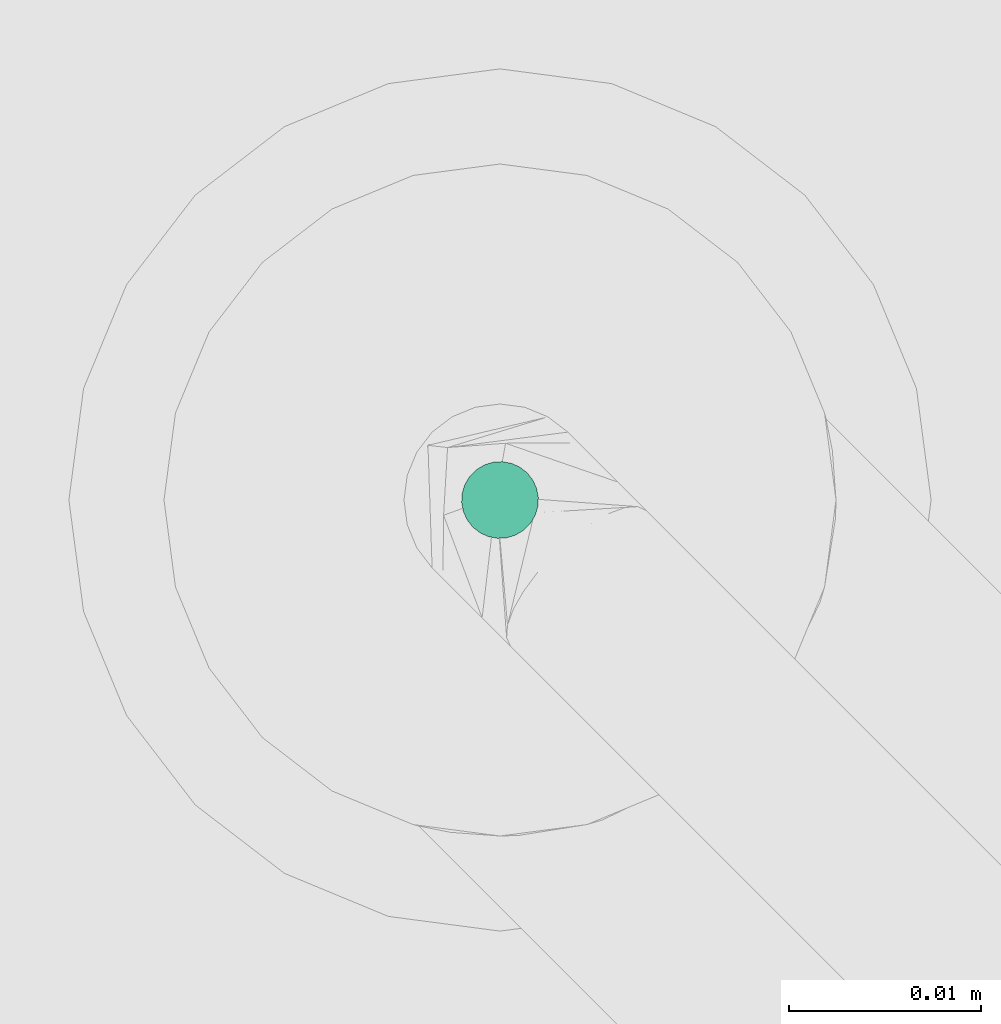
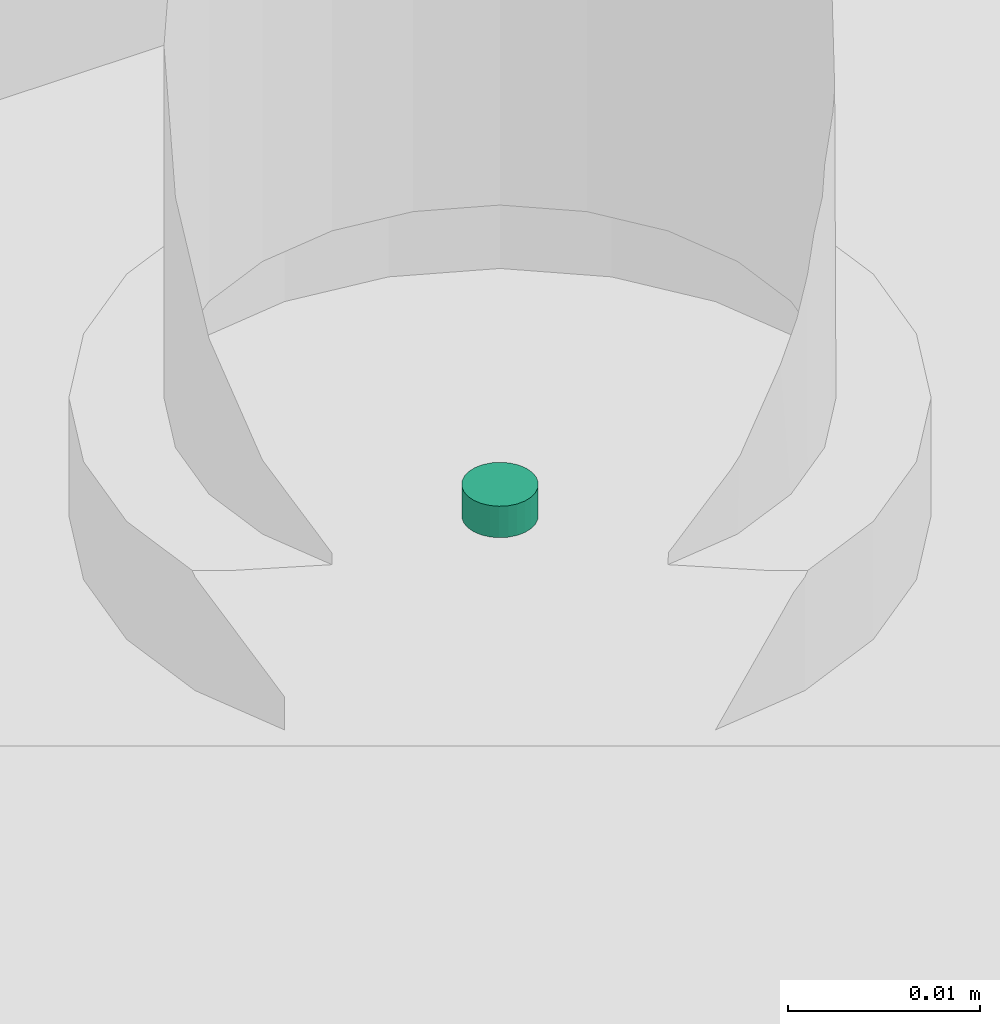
# One storey, part 72 of 155: 1 flow terminal.
"""IFC2X3 building model written with IfcOpenShell, lengths in metres."""

from ifc_helpers import new_model, entity, si_unit, converted_unit, derived_unit, direction, frame, frame_2d, origin, place, context, subcontext, project, spatial, circle, extrude, source, transform, mapped, element, save


model = new_model("IFC2X3")

# Units and contexts
model_context = context("Model", 3, precision=1e-05, world=origin(), true_north=direction((6.12303176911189e-17, 1.0)))
body_context = subcontext(model_context, "Body", "Model", "MODEL_VIEW")
ifc_project = project(units=[si_unit("LENGTHUNIT", "METRE"), si_unit("AREAUNIT", "SQUARE_METRE"), si_unit("VOLUMEUNIT", "CUBIC_METRE"), converted_unit("PLANEANGLEUNIT", "DEGREE", entity("IfcRatioMeasure", 0.0174532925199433), si_unit("PLANEANGLEUNIT", "RADIAN"), dimensions=[0, 0, 0, 0, 0, 0, 0]), si_unit("MASSUNIT", "GRAM", prefix="KILO"), derived_unit("MASSDENSITYUNIT", [(si_unit("MASSUNIT", "GRAM", prefix="KILO"), 1), (si_unit("LENGTHUNIT", "METRE"), -3)]), si_unit("TIMEUNIT", "SECOND"), si_unit("FREQUENCYUNIT", "HERTZ"), si_unit("THERMODYNAMICTEMPERATUREUNIT", "DEGREE_CELSIUS"), derived_unit("THERMALTRANSMITTANCEUNIT", [(si_unit("MASSUNIT", "GRAM", prefix="KILO"), 1), (si_unit("THERMODYNAMICTEMPERATUREUNIT", "KELVIN"), -1), (si_unit("TIMEUNIT", "SECOND"), -3)]), derived_unit("VOLUMETRICFLOWRATEUNIT", [(si_unit("LENGTHUNIT", "METRE"), 3), (si_unit("TIMEUNIT", "SECOND"), -1)]), si_unit("ELECTRICCURRENTUNIT", "AMPERE"), si_unit("ELECTRICVOLTAGEUNIT", "VOLT"), si_unit("POWERUNIT", "WATT"), si_unit("FORCEUNIT", "NEWTON", prefix="KILO"), si_unit("ILLUMINANCEUNIT", "LUX"), si_unit("LUMINOUSFLUXUNIT", "LUMEN"), si_unit("LUMINOUSINTENSITYUNIT", "CANDELA"), derived_unit("USERDEFINED", [(si_unit("MASSUNIT", "GRAM", prefix="KILO"), -1), (si_unit("LENGTHUNIT", "METRE"), -2), (si_unit("TIMEUNIT", "SECOND"), 3), (si_unit("LUMINOUSFLUXUNIT", "LUMEN"), 1)]), derived_unit("LINEARVELOCITYUNIT", [(si_unit("LENGTHUNIT", "METRE"), 1), (si_unit("TIMEUNIT", "SECOND"), -1)]), si_unit("PRESSUREUNIT", "PASCAL"), derived_unit("USERDEFINED", [(si_unit("LENGTHUNIT", "METRE"), -2), (si_unit("MASSUNIT", "GRAM", prefix="KILO"), 1), (si_unit("TIMEUNIT", "SECOND"), -2)])], contexts=[model_context])

# Site, building, storey, space
site_placement = place(None, frame((26.9889013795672, -17.5624287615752, 0.0)))
site = spatial("IfcSite", under=ifc_project, at=site_placement, Name="Default", CompositionType="ELEMENT")
building_placement = place(site_placement, origin())
building = spatial("IfcBuilding", under=site, at=building_placement, Name="C. C. L. Monsenhor Antônio Sampaio", CompositionType="ELEMENT")
storey_placement = place(building_placement, frame((0.0, 0.0, 1.19999999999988)))
storey = spatial("IfcBuildingStorey", under=building, at=storey_placement, Name="Nível 1.2", CompositionType="ELEMENT", Elevation=1.19999999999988)
space_placement = place(storey_placement, origin())
space = spatial("IfcSpace", under=storey, at=space_placement, Name="96", CompositionType="ELEMENT", InteriorOrExteriorSpace="INTERNAL")

# Flow terminal
shared_shape = source(origin(), body_context, "Body", "SweptSolid", [
    extrude(circle(Radius=0.002, at=frame_2d((-1.63609214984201e-20, -9.004248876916e-18), x_axis=(1.0, 0.0))), origin(), (0.0, 0.0, 1.0), 0.00199999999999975),
])
flow_terminal_placement = place(space_placement, frame((-4.37741340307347, -15.2989519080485, 0.815000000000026), z_axis=(0.0, 0.0, 1.0), x_axis=(-0.707106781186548, -0.707106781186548, 0.0)))
element("IfcFlowTerminal", 1, at=flow_terminal_placement, inside=space, Name="FDE_H613_DispositivosRestritoresDeVazão:H613_RestritorDeVazãoPara6L/minTorneiraseMisturadores", ObjectType="H613_RestritorDeVazãoPara6L/minTorneiraseMisturadores", context=body_context, shape_type="MappedRepresentation", body=[
    mapped(shared_shape, transform((0.0, 0.0, 0.0), scale=1.0)),
])

save(model, "model.ifc")
